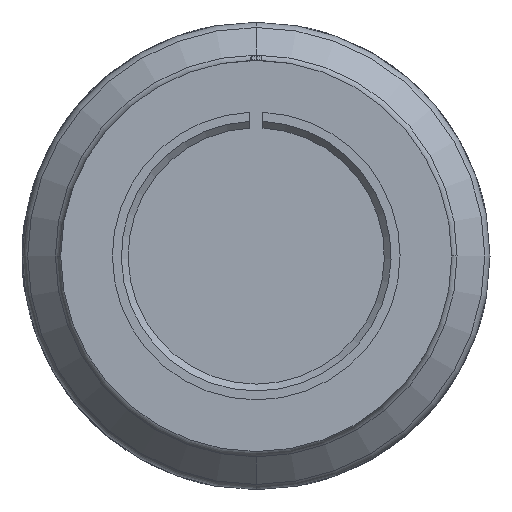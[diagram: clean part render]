
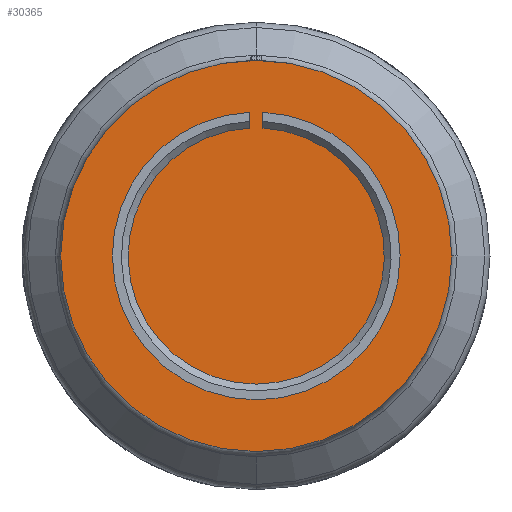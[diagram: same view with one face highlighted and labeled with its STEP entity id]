
A CAD part, left-side view. The second image highlights one B-rep face of the part: STEP entity #30365.
In plain terms, the highlighted planar face has unit normal (-1, 0, 0).
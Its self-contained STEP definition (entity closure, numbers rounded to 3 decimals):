
#546 = VERTEX_POINT ( 'NONE', #47390 ) ;
#2392 = EDGE_CURVE ( 'NONE', #67656, #10798, #10106, .T. ) ;
#3087 = DIRECTION ( 'NONE',  ( 0., 0., -1. ) ) ;
#3338 = CARTESIAN_POINT ( 'NONE',  ( -1., 0., 0. ) ) ;
#3590 = DIRECTION ( 'NONE',  ( 0., 1., 0. ) ) ;
#4448 = DIRECTION ( 'NONE',  ( 1., 0., 0. ) ) ;
#5209 = DIRECTION ( 'NONE',  ( 0., 0., -1. ) ) ;
#5763 = CARTESIAN_POINT ( 'NONE',  ( -1., 0., -21.75 ) ) ;
#6104 = CARTESIAN_POINT ( 'NONE',  ( -1., -0.75, 14.23 ) ) ;
#9070 = VERTEX_POINT ( 'NONE', #51409 ) ;
#9385 = EDGE_CURVE ( 'NONE', #546, #73964, #15034, .T. ) ;
#9976 = CARTESIAN_POINT ( 'NONE',  ( -1., -0.75, 0. ) ) ;
#10106 = CIRCLE ( 'NONE', #74119, 16. ) ;
#10694 = DIRECTION ( 'NONE',  ( 0., 1., 0. ) ) ;
#10798 = VERTEX_POINT ( 'NONE', #50992 ) ;
#13463 = EDGE_CURVE ( 'NONE', #80860, #67656, #76168, .T. ) ;
#14267 = EDGE_CURVE ( 'NONE', #10798, #9070, #64754, .T. ) ;
#15034 = CIRCLE ( 'NONE', #80813, 14.25 ) ;
#16703 = VECTOR ( 'NONE', #50582, 1000. ) ;
#18958 = CIRCLE ( 'NONE', #58345, 14.25 ) ;
#20012 = ORIENTED_EDGE ( 'NONE', *, *, #22325, .T. ) ;
#20548 = EDGE_LOOP ( 'NONE', ( #80316, #64465, #79075, #20012, #21598, #57672, #32712 ) ) ;
#21180 = CIRCLE ( 'NONE', #46559, 21.75 ) ;
#21431 = CARTESIAN_POINT ( 'NONE',  ( -1., 0., 21.75 ) ) ;
#21598 = ORIENTED_EDGE ( 'NONE', *, *, #45770, .F. ) ;
#22325 = EDGE_CURVE ( 'NONE', #73964, #32019, #18958, .T. ) ;
#24921 = VERTEX_POINT ( 'NONE', #21431 ) ;
#25608 = CARTESIAN_POINT ( 'NONE',  ( -1., 0., 0. ) ) ;
#28611 = AXIS2_PLACEMENT_3D ( 'NONE', #43656, #31540, #83539 ) ;
#28700 = CARTESIAN_POINT ( 'NONE',  ( -1., 0., 0. ) ) ;
#29529 = DIRECTION ( 'NONE',  ( -1., 0., 0. ) ) ;
#30365 = ADVANCED_FACE ( 'NONE', ( #59795, #31185 ), #36035, .F. ) ;
#30580 = CARTESIAN_POINT ( 'NONE',  ( -1., 0., 0. ) ) ;
#31185 = FACE_OUTER_BOUND ( 'NONE', #66107, .T. ) ;
#31540 = DIRECTION ( 'NONE',  ( 1., 0., 0. ) ) ;
#32019 = VERTEX_POINT ( 'NONE', #6104 ) ;
#32712 = ORIENTED_EDGE ( 'NONE', *, *, #2392, .F. ) ;
#34017 = LINE ( 'NONE', #84220, #16703 ) ;
#36035 = PLANE ( 'NONE',  #38842 ) ;
#36236 = DIRECTION ( 'NONE',  ( 0., 1., 0. ) ) ;
#36559 = CARTESIAN_POINT ( 'NONE',  ( -1., 0.75, 15.982 ) ) ;
#37976 = VERTEX_POINT ( 'NONE', #5763 ) ;
#38013 = ORIENTED_EDGE ( 'NONE', *, *, #61646, .F. ) ;
#38124 = LINE ( 'NONE', #9976, #64658 ) ;
#38842 = AXIS2_PLACEMENT_3D ( 'NONE', #42385, #81732, #3590 ) ;
#42385 = CARTESIAN_POINT ( 'NONE',  ( -1., 0., -16. ) ) ;
#43656 = CARTESIAN_POINT ( 'NONE',  ( -1., 0., 0. ) ) ;
#44952 = DIRECTION ( 'NONE',  ( 0., 1., 0. ) ) ;
#45770 = EDGE_CURVE ( 'NONE', #9070, #32019, #38124, .T. ) ;
#46559 = AXIS2_PLACEMENT_3D ( 'NONE', #30580, #4448, #76213 ) ;
#47390 = CARTESIAN_POINT ( 'NONE',  ( -1., 0.75, 14.23 ) ) ;
#48793 = EDGE_CURVE ( 'NONE', #37976, #24921, #82311, .T. ) ;
#49891 = EDGE_CURVE ( 'NONE', #546, #80860, #34017, .T. ) ;
#50582 = DIRECTION ( 'NONE',  ( 0., 0., 1. ) ) ;
#50992 = CARTESIAN_POINT ( 'NONE',  ( -1., -16., 0. ) ) ;
#51409 = CARTESIAN_POINT ( 'NONE',  ( -1., -0.75, 15.982 ) ) ;
#52167 = ORIENTED_EDGE ( 'NONE', *, *, #48793, .F. ) ;
#57672 = ORIENTED_EDGE ( 'NONE', *, *, #14267, .F. ) ;
#58345 = AXIS2_PLACEMENT_3D ( 'NONE', #28700, #29529, #3087 ) ;
#59795 = FACE_BOUND ( 'NONE', #20548, .T. ) ;
#61646 = EDGE_CURVE ( 'NONE', #24921, #37976, #21180, .T. ) ;
#64465 = ORIENTED_EDGE ( 'NONE', *, *, #49891, .F. ) ;
#64658 = VECTOR ( 'NONE', #5209, 1000. ) ;
#64754 = CIRCLE ( 'NONE', #69160, 16. ) ;
#66107 = EDGE_LOOP ( 'NONE', ( #52167, #38013 ) ) ;
#67656 = VERTEX_POINT ( 'NONE', #83490 ) ;
#68765 = CARTESIAN_POINT ( 'NONE',  ( -1., 0., 0. ) ) ;
#68885 = DIRECTION ( 'NONE',  ( -1., 0., 0. ) ) ;
#69160 = AXIS2_PLACEMENT_3D ( 'NONE', #3338, #68885, #10694 ) ;
#70135 = AXIS2_PLACEMENT_3D ( 'NONE', #68765, #75305, #36236 ) ;
#71226 = DIRECTION ( 'NONE',  ( -1., 0., 0. ) ) ;
#71699 = CARTESIAN_POINT ( 'NONE',  ( -1., 0., -14.25 ) ) ;
#73964 = VERTEX_POINT ( 'NONE', #71699 ) ;
#74119 = AXIS2_PLACEMENT_3D ( 'NONE', #77956, #84584, #44952 ) ;
#75305 = DIRECTION ( 'NONE',  ( -1., 0., 0. ) ) ;
#76168 = CIRCLE ( 'NONE', #70135, 16. ) ;
#76213 = DIRECTION ( 'NONE',  ( 0., 0., -1. ) ) ;
#77956 = CARTESIAN_POINT ( 'NONE',  ( -1., 0., 0. ) ) ;
#79075 = ORIENTED_EDGE ( 'NONE', *, *, #9385, .T. ) ;
#80316 = ORIENTED_EDGE ( 'NONE', *, *, #13463, .F. ) ;
#80813 = AXIS2_PLACEMENT_3D ( 'NONE', #25608, #71226, #83583 ) ;
#80860 = VERTEX_POINT ( 'NONE', #36559 ) ;
#81732 = DIRECTION ( 'NONE',  ( 1., 0., 0. ) ) ;
#82311 = CIRCLE ( 'NONE', #28611, 21.75 ) ;
#83490 = CARTESIAN_POINT ( 'NONE',  ( -1., 16., 0. ) ) ;
#83539 = DIRECTION ( 'NONE',  ( 0., 0., -1. ) ) ;
#83583 = DIRECTION ( 'NONE',  ( 0., 0., -1. ) ) ;
#84220 = CARTESIAN_POINT ( 'NONE',  ( -1., 0.75, 0. ) ) ;
#84584 = DIRECTION ( 'NONE',  ( -1., 0., 0. ) ) ;
